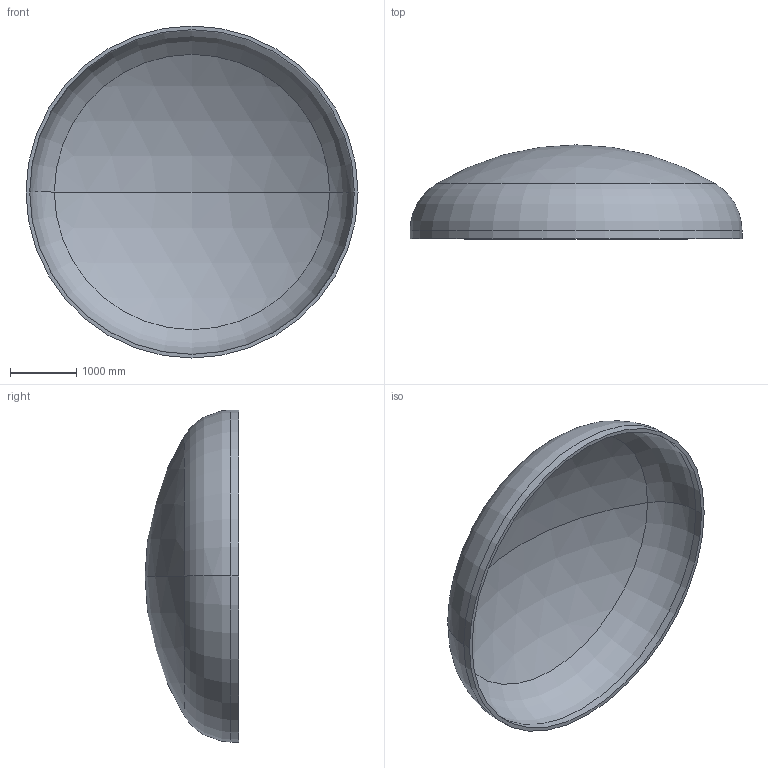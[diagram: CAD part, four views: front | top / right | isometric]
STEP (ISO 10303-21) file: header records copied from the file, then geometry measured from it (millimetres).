
FILE_DESCRIPTION (( 'STEP AP203' ), '1' );
FILE_NAME ('DIN 28013 Korbbogenform_-_Boden DIN 28013 - 5000 x 120 - I - s=56.step', '2016-07-02T00:37:56', ( '' ), ( '' ), 'SwSTEP 2.0', 'SolidWorks 2013', '' );
FILE_SCHEMA (( 'CONFIG_CONTROL_DESIGN' ));
Length unit declared in the file: millimetre
Products named in the file (1): DIN 28013 Korbbogenform_-_Boden DIN 28013 - 5000 x 120 - I - s=56
Bounding box: 5000 x 1413.64 x 5000 mm (x, y, z)
Volume: 1604857964.2 mm3; surface area: 58192696.4 mm2
Topology: 1 solids, 1 shells, 13 faces, 24 edges, 14 vertices
Faces by surface type: torus 4, cylinder 4, sphere 4, plane 1
Entity records: 407 total; most frequent: DIRECTION 72, CARTESIAN_POINT 52, ORIENTED_EDGE 48, AXIS2_PLACEMENT_3D 34, EDGE_CURVE 24, CIRCLE 20, EDGE_LOOP 14, VERTEX_POINT 14
